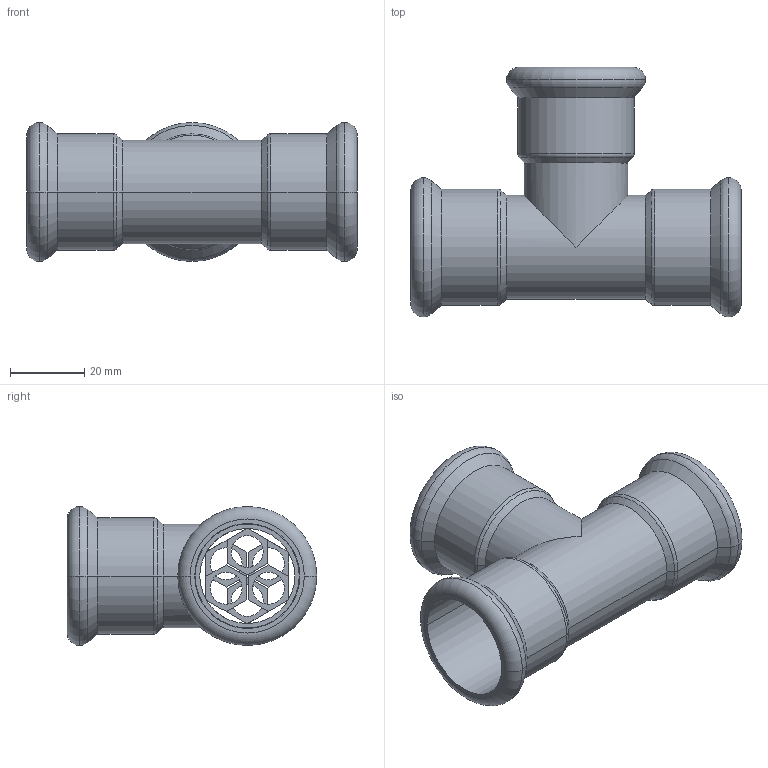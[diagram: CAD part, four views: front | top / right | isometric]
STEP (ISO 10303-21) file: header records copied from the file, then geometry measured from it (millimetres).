
FILE_DESCRIPTION(('OneSpaceDesigner STEP Export'),'2;1');
FILE_NAME('R2714 28x28x28.stp','2010-06-10T 8:38:54',(''),(''),'OneSpace Designer STEP processor for AP214 (Solid Model)','OneSpace Modeling 15.00A 14-Mar-2007 (C) CoCreate Software GmbH','');
FILE_SCHEMA(('AUTOMOTIVE_DESIGN { 1 0 10303 214 1 1 1 1 }'));
Length unit declared in the file: millimetre
Products named in the file (1): R2714_28x28x28
Bounding box: 89 x 67.22 x 37.45 mm (x, y, z)
Volume: 22061.6 mm3; surface area: 26122.6 mm2
Topology: 1 solids, 1 shells, 173 faces, 435 edges, 278 vertices
Faces by surface type: plane 90, cylinder 53, torus 18, cone 12
Entity records: 4654 total; most frequent: ORIENTED_EDGE 870, CARTESIAN_POINT 766, DIRECTION 713, EDGE_CURVE 435, VERTEX_POINT 278, VECTOR 263, LINE 263, AXIS2_PLACEMENT_3D 225
